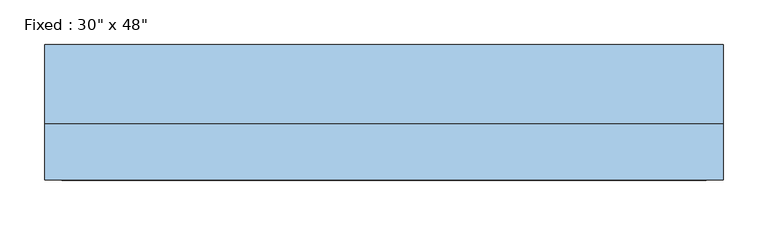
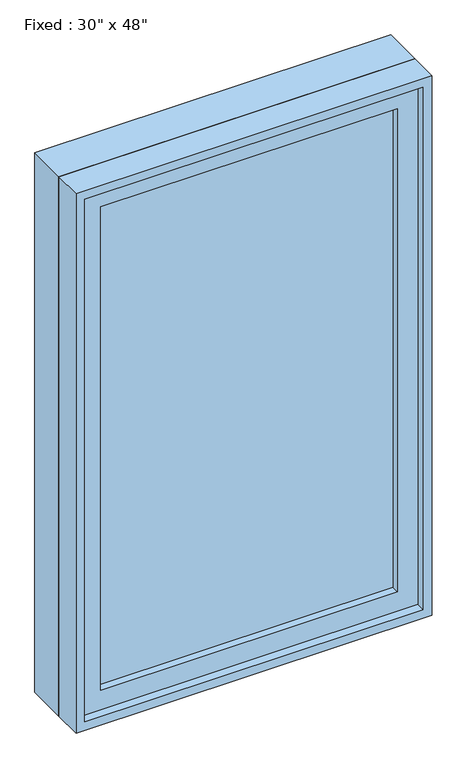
"""IFC4 building model written with IfcOpenShell, lengths in millimetres: window geometry."""

from ifc_helpers import new_model, si_unit, frame, origin, place, context, project, spatial, polyline, outline, extrude, source, transform, mapped, element, save


def window_18dd6586(model_context):
    return source(origin(), model_context, "Body", "SweptSolid", [
        extrude(outline(polyline([(279.4, -28.575), (279.4, -41.275), (-355.6, -41.275), (-355.6, -28.575), (279.4, -28.575)])), frame((0.0, 0.0, 825.5), z_axis=(0.0, 0.0, 1.0), x_axis=(1.0, 0.0, 0.0)), (0.0, 0.0, 1.0), 1092.2),
        extrude(outline(polyline([(1962.15, -400.05), (781.05, -400.05), (781.05, 323.85), (1962.15, 323.85), (1962.15, -400.05)]), holes=[polyline([(1917.7, -355.6), (1917.7, 279.4), (825.5, 279.4), (825.5, -355.6), (1917.7, -355.6)])]), frame((0.0, -57.15, 0.0), z_axis=(0.0, 1.0, 0.0), x_axis=(0.0, 0.0, 1.0)), (0.0, 0.0, 1.0), 44.45),
        extrude(outline(polyline([(1981.2, -419.1), (762.0, -419.1), (762.0, 342.9), (1981.2, 342.9), (1981.2, -419.1)]), holes=[polyline([(1949.45, -387.35), (1949.45, 311.15), (793.75, 311.15), (793.75, -387.35), (1949.45, -387.35)])]), frame((0.0, -12.7, 0.0), z_axis=(0.0, 1.0, 0.0), x_axis=(0.0, 0.0, 1.0)), (0.0, 0.0, 1.0), 88.9),
        extrude(outline(polyline([(1981.2, 342.9), (1981.2, -419.1), (762.0, -419.1), (762.0, 342.9), (1981.2, 342.9)]), holes=[polyline([(1962.15, 323.85), (781.05, 323.85), (781.05, -400.05), (1962.15, -400.05), (1962.15, 323.85)])]), frame((0.0, -76.2, 0.0), z_axis=(0.0, 1.0, 0.0), x_axis=(0.0, 0.0, 1.0)), (0.0, 0.0, 1.0), 63.5),
    ])


if __name__ == "__main__":
    model = new_model("IFC4")
    model_context = context("Model", 3, world=origin())
    ifc_project = project(units=[si_unit("LENGTHUNIT", "METRE", prefix="MILLI")], contexts=[model_context])
    site = spatial("IfcSite", under=ifc_project)
    building = spatial("IfcBuilding", under=site)
    placement = place(None, origin())
    window_shape = window_18dd6586(model_context)
    element("IfcWindow", 1, ObjectType="Fixed : 30\" x 48\"", at=placement, inside=building, context=model_context, shape_type="MappedRepresentation", body=[
        mapped(window_shape, transform((0.0, 0.0, 0.0), x_axis=(1.0, 0.0, 0.0), y_axis=(0.0, 1.0, 0.0), z_axis=(0.0, 0.0, 1.0))),
    ])
    save(model, "model.ifc")
